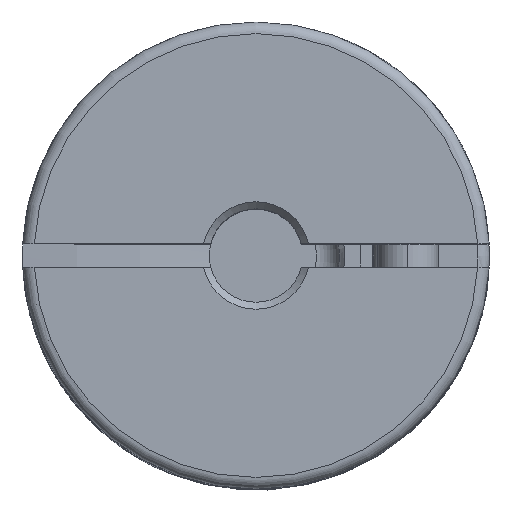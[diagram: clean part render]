
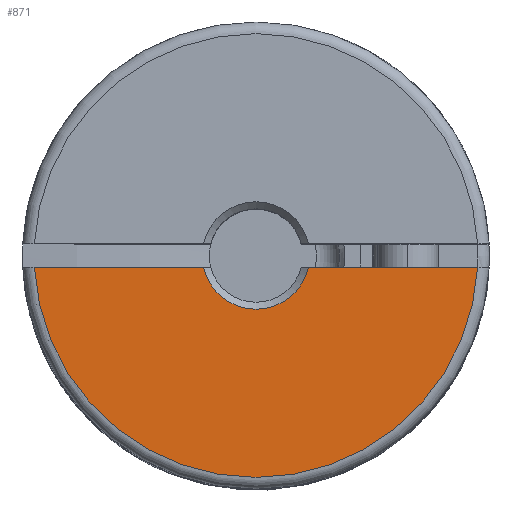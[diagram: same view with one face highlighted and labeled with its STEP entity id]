
A CAD part, top view. The second image highlights one B-rep face of the part: STEP entity #871.
In plain terms, the highlighted planar face has unit normal (0, 0, 1).
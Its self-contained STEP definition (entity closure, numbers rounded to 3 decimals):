
#437 = CARTESIAN_POINT ( 'NONE',  ( -9.487, -0.5, 15. ) ) ;
#438 = CARTESIAN_POINT ( 'NONE',  ( -2.245, -0.5, 15. ) ) ;
#871 = ADVANCED_FACE ( 'NONE', ( #1563 ), #7123, .T. ) ;
#1030 = VERTEX_POINT ( 'NONE', #438 ) ;
#1031 = VERTEX_POINT ( 'NONE', #437 ) ;
#1227 = EDGE_LOOP ( 'NONE', ( #6206, #6207, #6208, #6209 ) ) ;
#1563 = FACE_OUTER_BOUND ( 'NONE', #1227, .T. ) ;
#1778 = AXIS2_PLACEMENT_3D ( 'NONE', #7126, #7118, #7122 ) ;
#3074 = CARTESIAN_POINT ( 'NONE',  ( 2.245, -0.5, 15. ) ) ;
#3085 = CARTESIAN_POINT ( 'NONE',  ( 9.487, -0.5, 15. ) ) ;
#3465 = CARTESIAN_POINT ( 'NONE',  ( 0., -0.5, 15. ) ) ;
#3466 = DIRECTION ( 'NONE',  ( -1., 0., 0. ) ) ;
#3471 = DIRECTION ( 'NONE',  ( -1., 0., 0. ) ) ;
#3475 = CARTESIAN_POINT ( 'NONE',  ( 0., -0.5, 15. ) ) ;
#3478 = CARTESIAN_POINT ( 'NONE',  ( 0., 0., 15. ) ) ;
#3479 = DIRECTION ( 'NONE',  ( 0., 0., -1. ) ) ;
#3480 = DIRECTION ( 'NONE',  ( 1., 0., 0. ) ) ;
#3483 = CARTESIAN_POINT ( 'NONE',  ( 0., 0., 15. ) ) ;
#3484 = DIRECTION ( 'NONE',  ( 0., 0., 1. ) ) ;
#3485 = DIRECTION ( 'NONE',  ( 1., 0., 0. ) ) ;
#4165 = AXIS2_PLACEMENT_3D ( 'NONE', #3478, #3479, #3480 ) ;
#4166 = AXIS2_PLACEMENT_3D ( 'NONE', #3483, #3484, #3485 ) ;
#5240 = EDGE_CURVE ( 'NONE', #8055, #8044, #6608, .T. ) ;
#5241 = EDGE_CURVE ( 'NONE', #8044, #1030, #6606, .T. ) ;
#5242 = EDGE_CURVE ( 'NONE', #1030, #1031, #6610, .T. ) ;
#5243 = EDGE_CURVE ( 'NONE', #1031, #8055, #6611, .T. ) ;
#6206 = ORIENTED_EDGE ( 'NONE', *, *, #5240, .T. ) ;
#6207 = ORIENTED_EDGE ( 'NONE', *, *, #5241, .T. ) ;
#6208 = ORIENTED_EDGE ( 'NONE', *, *, #5242, .T. ) ;
#6209 = ORIENTED_EDGE ( 'NONE', *, *, #5243, .T. ) ;
#6606 = CIRCLE ( 'NONE', #4165, 2.3 ) ;
#6608 = LINE ( 'NONE', #3465, #6609 ) ;
#6609 = VECTOR ( 'NONE', #3466, 1000. ) ;
#6610 = LINE ( 'NONE', #3475, #6612 ) ;
#6611 = CIRCLE ( 'NONE', #4166, 9.5 ) ;
#6612 = VECTOR ( 'NONE', #3471, 1000. ) ;
#7118 = DIRECTION ( 'NONE',  ( 0., 0., 1. ) ) ;
#7122 = DIRECTION ( 'NONE',  ( 1., 0., 0. ) ) ;
#7123 = PLANE ( 'NONE',  #1778 ) ;
#7126 = CARTESIAN_POINT ( 'NONE',  ( 0., 0., 15. ) ) ;
#8044 = VERTEX_POINT ( 'NONE', #3074 ) ;
#8055 = VERTEX_POINT ( 'NONE', #3085 ) ;
